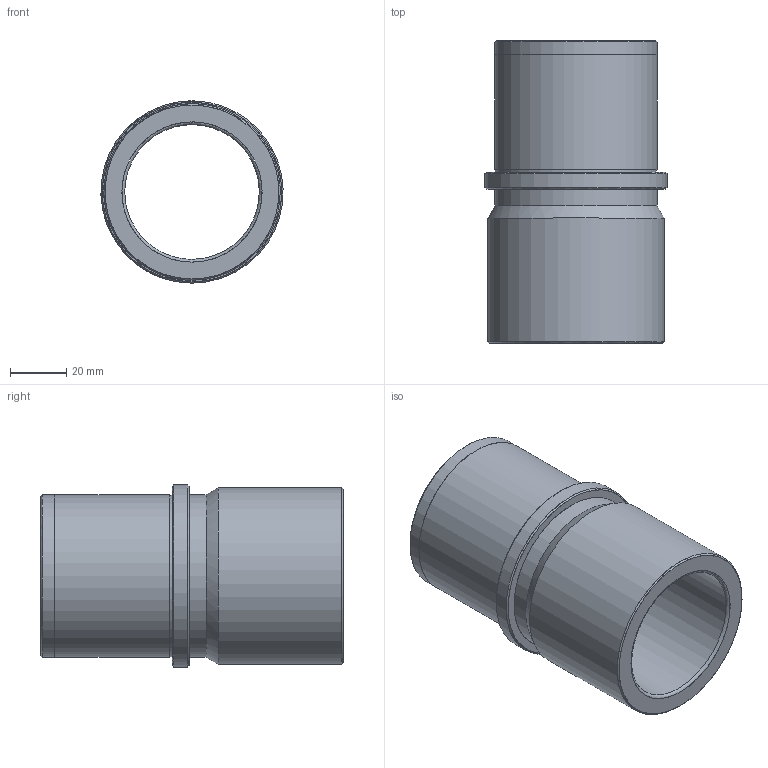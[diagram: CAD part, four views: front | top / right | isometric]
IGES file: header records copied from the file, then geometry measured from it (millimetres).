
Start section: Missler Software BP 521, 31674 Labege Cedex, France Tel   : +33 (0)5 61 00 03 00 Fax   : +33 (0)5 61 00 03 03 Email : sup.topsolid@topsolid.com
Global section: file name: C:\Documents and Settings\EXPER\Desktop\Cuma\24 03 2009\D27\D27_40X108X47.igs; native system: TopSolid v605250 Missler Software; preprocessor: IGES preprocessor v100000; date: 030102.054259; units: millimetre
Bounding box: 64.97 x 108 x 65 mm (x, y, z)
Surface area: 40252 mm2 (no closed solid volume)
Topology: 0 solids, 0 shells, 20 faces, 432 edges, 420 vertices
Faces by surface type: bspline 20
